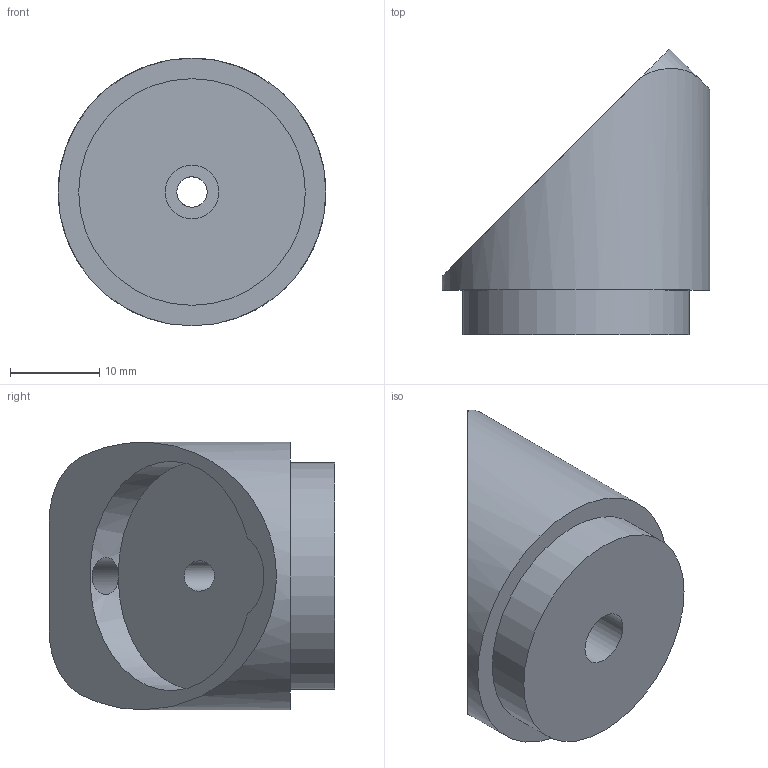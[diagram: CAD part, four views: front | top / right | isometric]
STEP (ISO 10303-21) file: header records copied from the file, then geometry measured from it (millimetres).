
FILE_DESCRIPTION (( 'STEP AP203' ), '1' );
FILE_NAME ('MA45-1.step', '2017-01-11T09:46:24', ( '¦K¬P' ), ( '' ), 'SwSTEP 2.0', 'SolidWorks 2012', '' );
FILE_SCHEMA (( 'CONFIG_CONTROL_DESIGN' ));
Length unit declared in the file: millimetre
Products named in the file (1): MA45-1
Bounding box: 30 x 32 x 30 mm (x, y, z)
Surface area: 4136.1 mm2 (no closed solid volume)
Topology: 0 solids, 2 shells, 29 faces, 68 edges, 43 vertices
Faces by surface type: plane 19, cylinder 9, cone 1
Full cylindrical faces by diameter (mm): 3.4 x1, 4.166 x1, 6 x1, 25.4 x1, 30 x1
Entity records: 939 total; most frequent: CARTESIAN_POINT 238, DIRECTION 129, ORIENTED_EDGE 113, EDGE_CURVE 59, AXIS2_PLACEMENT_3D 47, EDGE_LOOP 41, VERTEX_POINT 40, VECTOR 35
